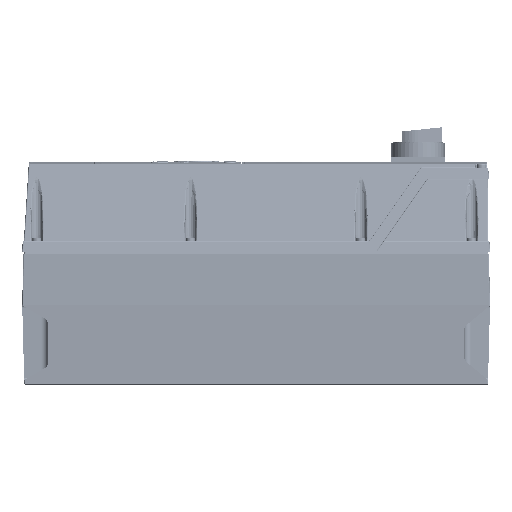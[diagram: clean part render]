
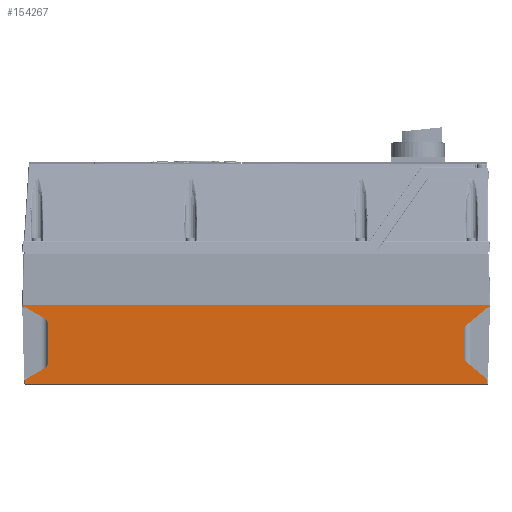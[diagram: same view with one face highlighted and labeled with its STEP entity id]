
A CAD part, left-side view. The second image highlights one B-rep face of the part: STEP entity #154267.
In plain terms, the highlighted planar face has unit normal (-1, 0, -0.026).
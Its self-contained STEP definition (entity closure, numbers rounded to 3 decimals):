
#8522=CARTESIAN_POINT('',(-120.983,-209.245,
10.616));
#8774=CARTESIAN_POINT('',(-119.673,-188.786,
-39.426));
#8775=CARTESIAN_POINT('',(-119.68,-188.488,
-39.176));
#8776=CARTESIAN_POINT('',(-119.694,-187.982,
-38.635));
#8777=CARTESIAN_POINT('',(-119.718,-187.435,
-37.724));
#8778=CARTESIAN_POINT('',(-119.744,-187.089,
-36.72));
#8779=CARTESIAN_POINT('',(-119.763,-187.,-35.984));
#8780=CARTESIAN_POINT('',(-119.773,-187.,-35.595));
#8926=CARTESIAN_POINT('',(-119.267,-207.267,
-54.933));
#9133=CARTESIAN_POINT('',(-120.434,-187.,-10.381));
#9134=CARTESIAN_POINT('',(-120.444,-187.,-9.992));
#9135=CARTESIAN_POINT('',(-120.463,-187.089,
-9.257));
#9136=CARTESIAN_POINT('',(-120.489,-187.435,
-8.252));
#9137=CARTESIAN_POINT('',(-120.513,-187.982,
-7.341));
#9138=CARTESIAN_POINT('',(-120.527,-188.488,
-6.8));
#9139=CARTESIAN_POINT('',(-120.534,-188.786,
-6.551));
#9141=DIRECTION('',(-0.013,-0.866,0.5));
#9142=VECTOR('',#9141,20.51);
#9143=CARTESIAN_POINT('',(-119.26,207.261,
-55.185));
#9144=LINE('',#9143,#9142);
#9145=DIRECTION('',(-0.026,0.,1.));
#9146=VECTOR('',#9145,35.698);
#9147=CARTESIAN_POINT('',(-119.642,187.,-40.601));
#9148=LINE('',#9147,#9146);
#9149=DIRECTION('',(-0.013,0.866,0.5));
#9150=VECTOR('',#9149,22.758);
#9151=CARTESIAN_POINT('',(-120.69,189.5,-0.586));
#9152=LINE('',#9151,#9150);
#9153=CARTESIAN_POINT('',(-121.,209.,11.25));
#9154=CARTESIAN_POINT('',(-121.,209.012,11.25));
#9155=CARTESIAN_POINT('',(-121.,209.029,11.242));
#9156=CARTESIAN_POINT('',(-120.999,209.057,11.217));
#9157=CARTESIAN_POINT('',(-120.998,209.084,11.175));
#9158=CARTESIAN_POINT('',(-120.997,209.11,11.119));
#9159=CARTESIAN_POINT('',(-120.994,209.141,11.038));
#9160=CARTESIAN_POINT('',(-120.992,209.174,10.93));
#9161=CARTESIAN_POINT('',(-120.989,209.196,10.838));
#9162=CARTESIAN_POINT('',(-120.988,209.207,10.792));
#9164=CARTESIAN_POINT('',(-120.983,-209.245,
10.616));
#9165=CARTESIAN_POINT('',(-120.985,-209.232,
10.679));
#9166=CARTESIAN_POINT('',(-120.987,-209.213,
10.771));
#9167=CARTESIAN_POINT('',(-120.991,-209.183,
10.891));
#9168=CARTESIAN_POINT('',(-120.993,-209.159,
10.978));
#9169=CARTESIAN_POINT('',(-120.995,-209.132,
11.062));
#9170=CARTESIAN_POINT('',(-120.997,-209.107,
11.127));
#9171=CARTESIAN_POINT('',(-120.998,-209.083,
11.176));
#9172=CARTESIAN_POINT('',(-120.999,-209.062,
11.209));
#9173=CARTESIAN_POINT('',(-121.,-209.037,
11.237));
#9174=CARTESIAN_POINT('',(-121.,-209.016,11.25));
#9175=CARTESIAN_POINT('',(-121.,-209.,11.25));
#9177=DIRECTION('',(0.017,0.766,-0.643));
#9178=VECTOR('',#9177,26.711);
#9179=CARTESIAN_POINT('',(-120.983,-209.245,
10.616));
#9180=LINE('',#9179,#9178);
#9181=DIRECTION('',(0.026,0.,-1.));
#9182=VECTOR('',#9181,25.223);
#9183=CARTESIAN_POINT('',(-120.434,-187.,-10.381));
#9184=LINE('',#9183,#9182);
#9185=DIRECTION('',(0.017,-0.766,-0.643));
#9186=VECTOR('',#9185,24.129);
#9187=CARTESIAN_POINT('',(-119.673,-188.786,
-39.426));
#9188=LINE('',#9187,#9186);
#9189=DIRECTION('',(0.026,0.026,-0.999));
#9190=VECTOR('',#9189,4.096);
#9191=CARTESIAN_POINT('',(-119.267,-207.267,
-54.933));
#9192=LINE('',#9191,#9190);
#9193=DIRECTION('',(0.,-1.,0.));
#9194=VECTOR('',#9193,414.32);
#9195=CARTESIAN_POINT('',(-119.16,207.16,
-59.026));
#9196=LINE('',#9195,#9194);
#9197=DIRECTION('',(-0.026,0.026,0.999));
#9198=VECTOR('',#9197,3.843);
#9199=CARTESIAN_POINT('',(-119.16,207.16,
-59.026));
#9200=LINE('',#9199,#9198);
#9243=CARTESIAN_POINT('',(-119.26,207.261,
-55.185));
#13024=CARTESIAN_POINT('',(-119.642,187.,-40.601));
#13025=CARTESIAN_POINT('',(-119.63,187.,-41.082));
#13026=CARTESIAN_POINT('',(-119.606,187.134,
-41.967));
#13027=CARTESIAN_POINT('',(-119.576,187.625,
-43.127));
#13028=CARTESIAN_POINT('',(-119.55,188.384,
-44.132));
#13029=CARTESIAN_POINT('',(-119.535,189.083,
-44.691));
#13030=CARTESIAN_POINT('',(-119.529,189.5,-44.931));
#13112=CARTESIAN_POINT('',(-120.69,189.5,-0.586));
#13113=CARTESIAN_POINT('',(-120.684,189.083,
-0.826));
#13114=CARTESIAN_POINT('',(-120.669,188.384,
-1.385));
#13115=CARTESIAN_POINT('',(-120.643,187.625,
-2.39));
#13116=CARTESIAN_POINT('',(-120.612,187.134,
-3.55));
#13117=CARTESIAN_POINT('',(-120.589,187.,-4.435));
#13118=CARTESIAN_POINT('',(-120.577,187.,-4.916));
#13378=DIRECTION('',(0.,-1.,0.));
#13379=VECTOR('',#13378,418.);
#13380=CARTESIAN_POINT('',(-121.,209.,11.25));
#13381=LINE('',#13380,#13379);
#126065=CARTESIAN_POINT('',(-121.,209.,11.25));
#126066=VERTEX_POINT('',#126065);
#126067=VERTEX_POINT('',#9162);
#126078=VERTEX_POINT('',#8522);
#126079=VERTEX_POINT('',#9175);
#126118=VERTEX_POINT('',#9243);
#126119=VERTEX_POINT('',#8926);
#126188=CARTESIAN_POINT('',(-119.16,207.16,
-59.026));
#126189=VERTEX_POINT('',#126188);
#126192=CARTESIAN_POINT('',(-119.16,-207.16,
-59.026));
#126193=VERTEX_POINT('',#126192);
#128007=CARTESIAN_POINT('',(-119.642,187.,-40.601));
#128008=CARTESIAN_POINT('',(-120.577,187.,-4.916));
#128009=VERTEX_POINT('',#128007);
#128010=VERTEX_POINT('',#128008);
#128011=CARTESIAN_POINT('',(-120.434,-187.,-10.381));
#128012=CARTESIAN_POINT('',(-119.773,-187.,-35.595));
#128013=VERTEX_POINT('',#128011);
#128014=VERTEX_POINT('',#128012);
#128021=CARTESIAN_POINT('',(-120.69,189.5,-0.586));
#128022=VERTEX_POINT('',#128021);
#128023=CARTESIAN_POINT('',(-120.534,-188.786,
-6.551));
#128024=VERTEX_POINT('',#128023);
#128029=CARTESIAN_POINT('',(-119.529,189.5,-44.931));
#128030=VERTEX_POINT('',#128029);
#128031=CARTESIAN_POINT('',(-119.673,-188.786,
-39.426));
#128032=VERTEX_POINT('',#128031);
#154234=CARTESIAN_POINT('',(-121.,210.,11.25));
#154235=DIRECTION('',(-1.,0.,-0.026));
#154236=DIRECTION('',(0.,-1.,0.));
#154237=AXIS2_PLACEMENT_3D('',#154234,#154235,#154236);
#154238=PLANE('',#154237);
#154240=ORIENTED_EDGE('',*,*,#154239,.T.);
#154242=ORIENTED_EDGE('',*,*,#154241,.F.);
#154244=ORIENTED_EDGE('',*,*,#154243,.T.);
#154246=ORIENTED_EDGE('',*,*,#154245,.F.);
#154248=ORIENTED_EDGE('',*,*,#154247,.T.);
#154250=ORIENTED_EDGE('',*,*,#154249,.F.);
#154252=ORIENTED_EDGE('',*,*,#154251,.T.);
#154253=ORIENTED_EDGE('',*,*,#152989,.F.);
#154254=ORIENTED_EDGE('',*,*,#153011,.T.);
#154255=ORIENTED_EDGE('',*,*,#154228,.F.);
#154256=ORIENTED_EDGE('',*,*,#153436,.T.);
#154257=ORIENTED_EDGE('',*,*,#153461,.F.);
#154258=ORIENTED_EDGE('',*,*,#153773,.T.);
#154260=ORIENTED_EDGE('',*,*,#154259,.T.);
#154262=ORIENTED_EDGE('',*,*,#154261,.F.);
#154264=ORIENTED_EDGE('',*,*,#154263,.T.);
#154265=EDGE_LOOP('',(#154240,#154242,#154244,#154246,#154248,#154250,#154252,
#154253,#154254,#154255,#154256,#154257,#154258,#154260,#154262,#154264));
#154266=FACE_OUTER_BOUND('',#154265,.F.);
#8781=B_SPLINE_CURVE_WITH_KNOTS('',3,(#8774,#8775,#8776,#8777,#8778,#8779,
#8780),.UNSPECIFIED.,.F.,.F.,(4,1,1,1,4),(0.,0.25,0.5,0.75,1.),
.UNSPECIFIED.);
#9140=B_SPLINE_CURVE_WITH_KNOTS('',3,(#9133,#9134,#9135,#9136,#9137,#9138,
#9139),.UNSPECIFIED.,.F.,.F.,(4,1,1,1,4),(0.,0.25,0.5,0.75,1.),
.UNSPECIFIED.);
#9163=B_SPLINE_CURVE_WITH_KNOTS('',3,(#9153,#9154,#9155,#9156,#9157,#9158,#9159,
#9160,#9161,#9162),.UNSPECIFIED.,.F.,.F.,(4,1,1,1,1,1,1,4),(0.,0.063,
0.125,0.25,0.375,0.5,0.75,1.),.UNSPECIFIED.);
#9176=B_SPLINE_CURVE_WITH_KNOTS('',3,(#9164,#9165,#9166,#9167,#9168,#9169,#9170,
#9171,#9172,#9173,#9174,#9175),.UNSPECIFIED.,.F.,.F.,(4,1,1,1,1,1,1,1,1,4),
(0.,0.25,0.375,0.5,0.625,0.75,0.813,0.875,0.938,1.),
.UNSPECIFIED.);
#13031=B_SPLINE_CURVE_WITH_KNOTS('',3,(#13024,#13025,#13026,#13027,#13028,
#13029,#13030),.UNSPECIFIED.,.F.,.F.,(4,1,1,1,4),(0.,0.25,0.5,0.75,
1.),.UNSPECIFIED.);
#13119=B_SPLINE_CURVE_WITH_KNOTS('',3,(#13112,#13113,#13114,#13115,#13116,
#13117,#13118),.UNSPECIFIED.,.F.,.F.,(4,1,1,1,4),(0.,0.25,0.5,0.75,
1.),.UNSPECIFIED.);
#152989=EDGE_CURVE('',#126078,#126079,#9176,.T.);
#153011=EDGE_CURVE('',#126078,#128024,#9180,.T.);
#153436=EDGE_CURVE('',#128013,#128014,#9184,.T.);
#153461=EDGE_CURVE('',#128032,#128014,#8781,.T.);
#153773=EDGE_CURVE('',#128032,#126119,#9188,.T.);
#154228=EDGE_CURVE('',#128013,#128024,#9140,.T.);
#154239=EDGE_CURVE('',#126118,#128030,#9144,.T.);
#154241=EDGE_CURVE('',#128009,#128030,#13031,.T.);
#154243=EDGE_CURVE('',#128009,#128010,#9148,.T.);
#154245=EDGE_CURVE('',#128022,#128010,#13119,.T.);
#154247=EDGE_CURVE('',#128022,#126067,#9152,.T.);
#154249=EDGE_CURVE('',#126066,#126067,#9163,.T.);
#154251=EDGE_CURVE('',#126066,#126079,#13381,.T.);
#154259=EDGE_CURVE('',#126119,#126193,#9192,.T.);
#154261=EDGE_CURVE('',#126189,#126193,#9196,.T.);
#154263=EDGE_CURVE('',#126189,#126118,#9200,.T.);
#154267=ADVANCED_FACE('',(#154266),#154238,.T.);
